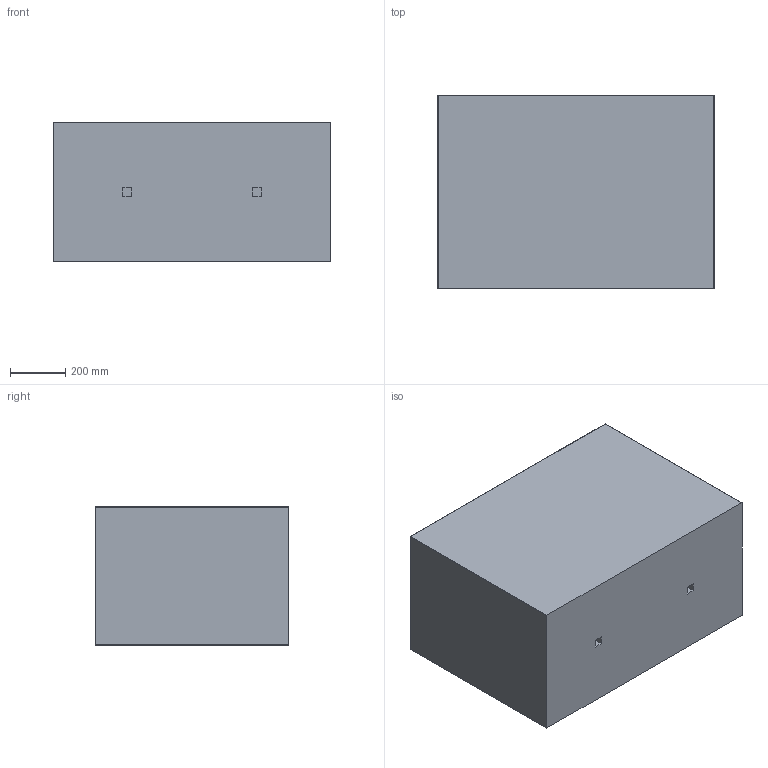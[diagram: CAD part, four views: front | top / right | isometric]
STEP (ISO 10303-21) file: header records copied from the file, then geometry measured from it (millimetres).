
FILE_DESCRIPTION(/* description */ (''),/* implementation_level */ '2;1');
FILE_NAME(/* name */ 'C:\Mac\Home\Desktop\btnv\inventor\basso1005070\donica betonowa Basso 100x50x70 cm.stp',/* time_stamp */ '2025-11-10T21:49:06+01:00',/* author */ ('dwasik'),/* organization */ (''),/* preprocessor_version */ 'ST-DEVELOPER v15.6',/* originating_system */ 'Autodesk Inventor 2015',/* authorisation */ '');
FILE_SCHEMA (('AUTOMOTIVE_DESIGN { 1 0 10303 214 3 1 1 }'));
Length unit declared in the file: millimetre
Products named in the file (1): Part1
Bounding box: 1000 x 700 x 500 mm (x, y, z)
Volume: 94920756 mm3; surface area: 4873509.2 mm2
Topology: 1 solids, 1 shells, 33 faces, 72 edges, 44 vertices
Faces by surface type: plane 21, cylinder 8, sphere 4
Entity records: 910 total; most frequent: DIRECTION 156, CARTESIAN_POINT 150, ORIENTED_EDGE 144, EDGE_CURVE 72, LINE 56, VECTOR 56, AXIS2_PLACEMENT_3D 50, VERTEX_POINT 44
